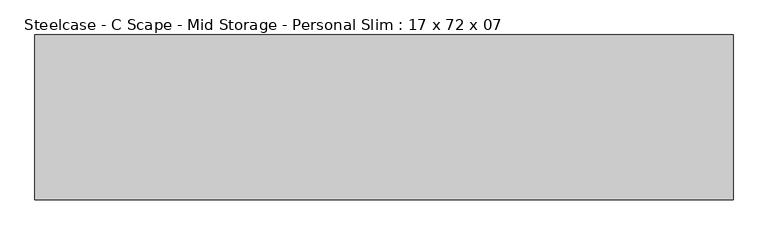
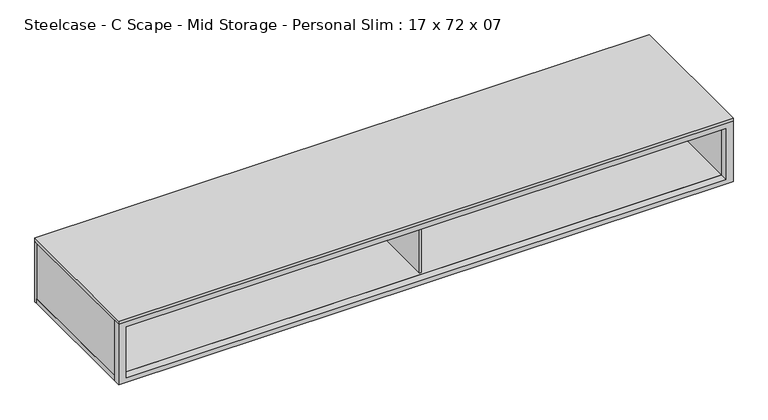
"""IFC4 building model written with IfcOpenShell, lengths in millimetres: furniture geometry, Steelcase - C Scape - Mid Storage - Personal Slim : 17 x 72 x 07."""

from ifc_helpers import new_model, si_unit, frame, origin, place, context, project, spatial, polyline, outline, extrude, source, transform, mapped, element, save


def steelcase_c_scape_mid_storage_personal_slim_17_x_72_x_07_82bd0170(model_context):
    return source(origin(), model_context, "Body", "SweptSolid", [
        extrude(outline(polyline([(1028.7, 1828.8), (1028.7, 0.0), (838.2, 0.0), (838.2, 1828.8), (1028.7, 1828.8)]), holes=[polyline([(853.4399855, 21.9711633), (1013.46, 21.9711633), (1013.46, 1806.702), (853.4399855, 1806.702), (853.4399855, 21.9711633)])]), frame((0.0, -215.9, 0.0), z_axis=(0.0, 1.0, 0.0), x_axis=(0.0, 0.0, 1.0)), (0.0, 0.0, 1.0), 21.4627892),
        extrude(outline(polyline([(1828.8, 206.3755809), (1828.8, -194.4372108), (0.0, -194.4372108), (0.0, 206.3755809), (1828.8, 206.3755809)])), frame((0.0, 0.0, 838.2), z_axis=(0.0, 0.0, 1.0), x_axis=(1.0, 0.0, 0.0)), (0.0, 0.0, 1.0), 15.2399855),
        extrude(outline(polyline([(1828.8, 215.9), (1828.8, -215.9), (0.0, -215.9), (0.0, 215.9), (1828.8, 215.9)])), frame((0.0, 0.0, 1028.7), z_axis=(0.0, 0.0, 1.0), x_axis=(1.0, 0.0, 0.0)), (0.0, 0.0, 1.0), 10.1599903),
        extrude(outline(polyline([(1828.8, 215.9), (1828.8, 206.3755809), (0.0, 206.3755809), (0.0, 215.9), (1828.8, 215.9)])), frame((0.0, 0.0, 838.2), z_axis=(0.0, 0.0, 1.0), x_axis=(1.0, 0.0, 0.0)), (0.0, 0.0, 1.0), 190.5),
        extrude(outline(polyline([(21.9711633, 206.3755809), (21.9711633, -194.4372108), (0.0, -194.4372108), (0.0, 206.3755809), (21.9711633, 206.3755809)])), frame((0.0, 0.0, 853.4399855), z_axis=(0.0, 0.0, 1.0), x_axis=(1.0, 0.0, 0.0)), (0.0, 0.0, 1.0), 175.2600145),
        extrude(outline(polyline([(1806.702, 206.3755809), (1828.8, 206.3755809), (1828.8, -194.4372108), (1806.702, -194.4372108), (1806.702, 206.3755809)])), frame((0.0, 0.0, 853.4399855), z_axis=(0.0, 0.0, 1.0), x_axis=(1.0, 0.0, 0.0)), (0.0, 0.0, 1.0), 175.2600145),
        extrude(outline(polyline([(911.225, -187.1471039), (911.225, 206.3755809), (917.575, 206.3755809), (917.575, -187.1471039), (911.225, -187.1471039)])), frame((0.0, 0.0, 853.4399855), z_axis=(0.0, 0.0, 1.0), x_axis=(1.0, 0.0, 0.0)), (0.0, 0.0, 1.0), 160.0200145),
    ])


if __name__ == "__main__":
    model = new_model("IFC4")
    model_context = context("Model", 3, world=origin())
    ifc_project = project(units=[si_unit("LENGTHUNIT", "METRE", prefix="MILLI")], contexts=[model_context])
    site = spatial("IfcSite", under=ifc_project)
    building = spatial("IfcBuilding", under=site)
    placement = place(None, origin())
    steelcase_c_scape_mid_storage_personal_slim_17_x_72_x_07_shape = steelcase_c_scape_mid_storage_personal_slim_17_x_72_x_07_82bd0170(model_context)
    element("IfcFurniture", 1, ObjectType="Steelcase - C Scape - Mid Storage - Personal Slim : 17 x 72 x 07", at=placement, inside=building, context=model_context, shape_type="MappedRepresentation", body=[
        mapped(steelcase_c_scape_mid_storage_personal_slim_17_x_72_x_07_shape, transform((0.0, 0.0, 0.0), x_axis=(1.0, 0.0, 0.0), y_axis=(0.0, 1.0, 0.0), z_axis=(0.0, 0.0, 1.0))),
    ])
    save(model, "model.ifc")
